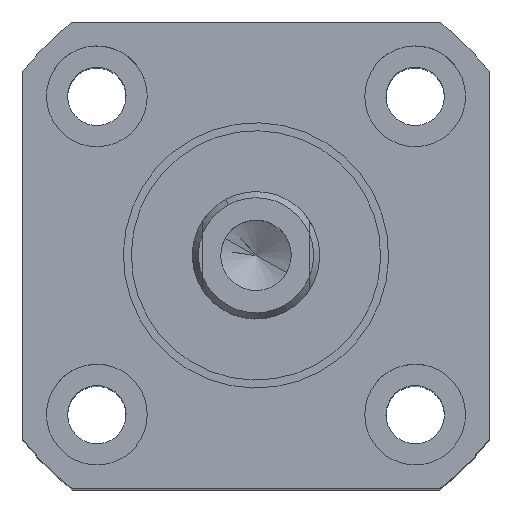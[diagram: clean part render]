
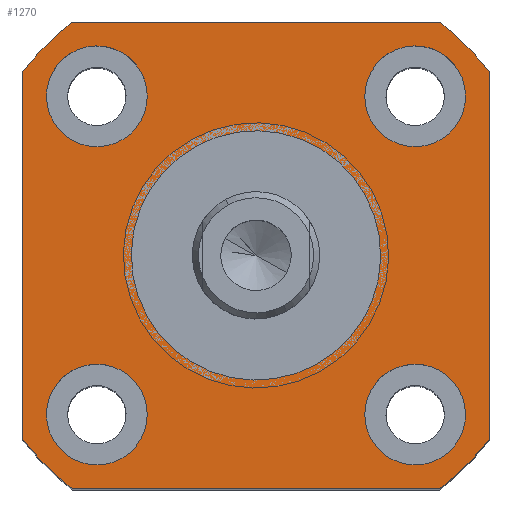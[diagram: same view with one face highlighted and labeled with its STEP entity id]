
A CAD part, top view. The second image highlights one B-rep face of the part: STEP entity #1270.
In plain terms, the highlighted planar face has unit normal (0, 0, 1).
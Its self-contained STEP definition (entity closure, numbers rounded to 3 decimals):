
#240=CARTESIAN_POINT('Vertex',(22.,-17.321,63.)) ;
#243=CARTESIAN_POINT('Axis2P3D Location',(0.,0.,63.)) ;
#247=CARTESIAN_POINT('Vertex',(17.321,-22.,63.)) ;
#324=CARTESIAN_POINT('Line Origine',(0.,-22.,63.)) ;
#328=CARTESIAN_POINT('Vertex',(-17.321,-22.,63.)) ;
#348=CARTESIAN_POINT('Line Origine',(0.,22.,63.)) ;
#352=CARTESIAN_POINT('Vertex',(17.321,22.,63.)) ;
#354=CARTESIAN_POINT('Vertex',(-17.321,22.,63.)) ;
#849=CARTESIAN_POINT('Axis2P3D Location',(15.,15.,63.)) ;
#853=CARTESIAN_POINT('Vertex',(12.723,10.831,63.)) ;
#855=CARTESIAN_POINT('Vertex',(17.277,19.169,63.)) ;
#884=CARTESIAN_POINT('Axis2P3D Location',(15.,15.,63.)) ;
#906=CARTESIAN_POINT('Axis2P3D Location',(15.,-15.,63.)) ;
#910=CARTESIAN_POINT('Vertex',(10.831,-12.723,63.)) ;
#912=CARTESIAN_POINT('Vertex',(19.169,-17.277,63.)) ;
#941=CARTESIAN_POINT('Axis2P3D Location',(15.,-15.,63.)) ;
#963=CARTESIAN_POINT('Axis2P3D Location',(-15.,-15.,63.)) ;
#967=CARTESIAN_POINT('Vertex',(-12.723,-10.831,63.)) ;
#969=CARTESIAN_POINT('Vertex',(-17.277,-19.169,63.)) ;
#998=CARTESIAN_POINT('Axis2P3D Location',(-15.,-15.,63.)) ;
#1024=CARTESIAN_POINT('Vertex',(-5.633,10.312,63.)) ;
#1031=CARTESIAN_POINT('Vertex',(5.633,-10.312,63.)) ;
#1034=CARTESIAN_POINT('Axis2P3D Location',(0.,0.,63.)) ;
#1046=CARTESIAN_POINT('Axis2P3D Location',(0.,0.,63.)) ;
#1063=CARTESIAN_POINT('Axis2P3D Location',(-15.,15.,63.)) ;
#1067=CARTESIAN_POINT('Vertex',(-10.831,12.723,63.)) ;
#1069=CARTESIAN_POINT('Vertex',(-19.169,17.277,63.)) ;
#1098=CARTESIAN_POINT('Axis2P3D Location',(-15.,15.,63.)) ;
#1160=CARTESIAN_POINT('Vertex',(-22.,17.321,63.)) ;
#1163=CARTESIAN_POINT('Axis2P3D Location',(0.,0.,63.)) ;
#1179=CARTESIAN_POINT('Vertex',(-22.,-17.321,63.)) ;
#1182=CARTESIAN_POINT('Axis2P3D Location',(0.,0.,63.)) ;
#1199=CARTESIAN_POINT('Line Origine',(-22.,0.,63.)) ;
#1215=CARTESIAN_POINT('Vertex',(22.,17.321,63.)) ;
#1218=CARTESIAN_POINT('Axis2P3D Location',(0.,0.,63.)) ;
#1230=CARTESIAN_POINT('Axis2P3D Location',(0.,28.,63.)) ;
#1235=CARTESIAN_POINT('Line Origine',(22.,0.,63.)) ;
#244=DIRECTION('Axis2P3D Direction',(0.,0.,1.)) ;
#325=DIRECTION('Vector Direction',(-1.,0.,0.)) ;
#349=DIRECTION('Vector Direction',(1.,0.,0.)) ;
#850=DIRECTION('Axis2P3D Direction',(-0.,0.,-1.)) ;
#885=DIRECTION('Axis2P3D Direction',(-0.,0.,-1.)) ;
#907=DIRECTION('Axis2P3D Direction',(0.,0.,-1.)) ;
#942=DIRECTION('Axis2P3D Direction',(0.,0.,-1.)) ;
#964=DIRECTION('Axis2P3D Direction',(0.,0.,-1.)) ;
#999=DIRECTION('Axis2P3D Direction',(0.,0.,-1.)) ;
#1035=DIRECTION('Axis2P3D Direction',(0.,0.,1.)) ;
#1047=DIRECTION('Axis2P3D Direction',(0.,0.,1.)) ;
#1064=DIRECTION('Axis2P3D Direction',(0.,-0.,-1.)) ;
#1099=DIRECTION('Axis2P3D Direction',(0.,-0.,-1.)) ;
#1164=DIRECTION('Axis2P3D Direction',(0.,0.,1.)) ;
#1183=DIRECTION('Axis2P3D Direction',(0.,0.,1.)) ;
#1200=DIRECTION('Vector Direction',(0.,-1.,0.)) ;
#1219=DIRECTION('Axis2P3D Direction',(0.,0.,1.)) ;
#1231=DIRECTION('Axis2P3D Direction',(0.,0.,1.)) ;
#1232=DIRECTION('Axis2P3D XDirection',(1.,0.,0.)) ;
#1236=DIRECTION('Vector Direction',(0.,1.,0.)) ;
#245=AXIS2_PLACEMENT_3D('Circle Axis2P3D',#243,#244,$) ;
#851=AXIS2_PLACEMENT_3D('Circle Axis2P3D',#849,#850,$) ;
#886=AXIS2_PLACEMENT_3D('Circle Axis2P3D',#884,#885,$) ;
#908=AXIS2_PLACEMENT_3D('Circle Axis2P3D',#906,#907,$) ;
#943=AXIS2_PLACEMENT_3D('Circle Axis2P3D',#941,#942,$) ;
#965=AXIS2_PLACEMENT_3D('Circle Axis2P3D',#963,#964,$) ;
#1000=AXIS2_PLACEMENT_3D('Circle Axis2P3D',#998,#999,$) ;
#1036=AXIS2_PLACEMENT_3D('Circle Axis2P3D',#1034,#1035,$) ;
#1048=AXIS2_PLACEMENT_3D('Circle Axis2P3D',#1046,#1047,$) ;
#1065=AXIS2_PLACEMENT_3D('Circle Axis2P3D',#1063,#1064,$) ;
#1100=AXIS2_PLACEMENT_3D('Circle Axis2P3D',#1098,#1099,$) ;
#1165=AXIS2_PLACEMENT_3D('Circle Axis2P3D',#1163,#1164,$) ;
#1184=AXIS2_PLACEMENT_3D('Circle Axis2P3D',#1182,#1183,$) ;
#1220=AXIS2_PLACEMENT_3D('Circle Axis2P3D',#1218,#1219,$) ;
#1233=AXIS2_PLACEMENT_3D('Plane Axis2P3D',#1230,#1231,#1232) ;
#1241=ORIENTED_EDGE('',*,*,#1239,.T.) ;
#1242=ORIENTED_EDGE('',*,*,#1222,.T.) ;
#1243=ORIENTED_EDGE('',*,*,#356,.T.) ;
#1244=ORIENTED_EDGE('',*,*,#1167,.T.) ;
#1245=ORIENTED_EDGE('',*,*,#1203,.T.) ;
#1246=ORIENTED_EDGE('',*,*,#1186,.T.) ;
#1247=ORIENTED_EDGE('',*,*,#330,.T.) ;
#1248=ORIENTED_EDGE('',*,*,#249,.T.) ;
#1251=ORIENTED_EDGE('',*,*,#1102,.F.) ;
#1252=ORIENTED_EDGE('',*,*,#1071,.F.) ;
#1255=ORIENTED_EDGE('',*,*,#1050,.F.) ;
#1256=ORIENTED_EDGE('',*,*,#1038,.F.) ;
#1259=ORIENTED_EDGE('',*,*,#1002,.F.) ;
#1260=ORIENTED_EDGE('',*,*,#971,.F.) ;
#1263=ORIENTED_EDGE('',*,*,#945,.F.) ;
#1264=ORIENTED_EDGE('',*,*,#914,.F.) ;
#1267=ORIENTED_EDGE('',*,*,#888,.F.) ;
#1268=ORIENTED_EDGE('',*,*,#857,.F.) ;
#1253=FACE_BOUND('',#1250,.T.) ;
#1257=FACE_BOUND('',#1254,.T.) ;
#1261=FACE_BOUND('',#1258,.T.) ;
#1265=FACE_BOUND('',#1262,.T.) ;
#1269=FACE_BOUND('',#1266,.T.) ;
#326=VECTOR('Line Direction',#325,1.) ;
#350=VECTOR('Line Direction',#349,1.) ;
#1201=VECTOR('Line Direction',#1200,1.) ;
#1237=VECTOR('Line Direction',#1236,1.) ;
#1270=ADVANCED_FACE('PartBody',(#1249,#1253,#1257,#1261,#1265,#1269),#1234,.T.) ;
#246=CIRCLE('generated circle',#245,28.) ;
#852=CIRCLE('generated circle',#851,4.75) ;
#887=CIRCLE('generated circle',#886,4.75) ;
#909=CIRCLE('generated circle',#908,4.75) ;
#944=CIRCLE('generated circle',#943,4.75) ;
#966=CIRCLE('generated circle',#965,4.75) ;
#1001=CIRCLE('generated circle',#1000,4.75) ;
#1037=CIRCLE('generated circle',#1036,11.75) ;
#1049=CIRCLE('generated circle',#1048,11.75) ;
#1066=CIRCLE('generated circle',#1065,4.75) ;
#1101=CIRCLE('generated circle',#1100,4.75) ;
#1166=CIRCLE('generated circle',#1165,28.) ;
#1185=CIRCLE('generated circle',#1184,28.) ;
#1221=CIRCLE('generated circle',#1220,28.) ;
#249=EDGE_CURVE('',#248,#241,#246,.T.) ;
#330=EDGE_CURVE('',#329,#248,#327,.F.) ;
#356=EDGE_CURVE('',#353,#355,#351,.F.) ;
#857=EDGE_CURVE('',#854,#856,#852,.F.) ;
#888=EDGE_CURVE('',#856,#854,#887,.F.) ;
#914=EDGE_CURVE('',#911,#913,#909,.F.) ;
#945=EDGE_CURVE('',#913,#911,#944,.F.) ;
#971=EDGE_CURVE('',#968,#970,#966,.F.) ;
#1002=EDGE_CURVE('',#970,#968,#1001,.F.) ;
#1038=EDGE_CURVE('',#1032,#1025,#1037,.T.) ;
#1050=EDGE_CURVE('',#1025,#1032,#1049,.T.) ;
#1071=EDGE_CURVE('',#1068,#1070,#1066,.F.) ;
#1102=EDGE_CURVE('',#1070,#1068,#1101,.F.) ;
#1167=EDGE_CURVE('',#355,#1161,#1166,.T.) ;
#1186=EDGE_CURVE('',#1180,#329,#1185,.T.) ;
#1203=EDGE_CURVE('',#1161,#1180,#1202,.T.) ;
#1222=EDGE_CURVE('',#1216,#353,#1221,.T.) ;
#1239=EDGE_CURVE('',#241,#1216,#1238,.T.) ;
#1240=EDGE_LOOP('',(#1241,#1242,#1243,#1244,#1245,#1246,#1247,#1248)) ;
#1250=EDGE_LOOP('',(#1251,#1252)) ;
#1254=EDGE_LOOP('',(#1255,#1256)) ;
#1258=EDGE_LOOP('',(#1259,#1260)) ;
#1262=EDGE_LOOP('',(#1263,#1264)) ;
#1266=EDGE_LOOP('',(#1267,#1268)) ;
#1249=FACE_OUTER_BOUND('',#1240,.T.) ;
#327=LINE('Line',#324,#326) ;
#351=LINE('Line',#348,#350) ;
#1202=LINE('Line',#1199,#1201) ;
#1238=LINE('Line',#1235,#1237) ;
#1234=PLANE('Plane',#1233) ;
#241=VERTEX_POINT('',#240) ;
#248=VERTEX_POINT('',#247) ;
#329=VERTEX_POINT('',#328) ;
#353=VERTEX_POINT('',#352) ;
#355=VERTEX_POINT('',#354) ;
#854=VERTEX_POINT('',#853) ;
#856=VERTEX_POINT('',#855) ;
#911=VERTEX_POINT('',#910) ;
#913=VERTEX_POINT('',#912) ;
#968=VERTEX_POINT('',#967) ;
#970=VERTEX_POINT('',#969) ;
#1025=VERTEX_POINT('',#1024) ;
#1032=VERTEX_POINT('',#1031) ;
#1068=VERTEX_POINT('',#1067) ;
#1070=VERTEX_POINT('',#1069) ;
#1161=VERTEX_POINT('',#1160) ;
#1180=VERTEX_POINT('',#1179) ;
#1216=VERTEX_POINT('',#1215) ;
